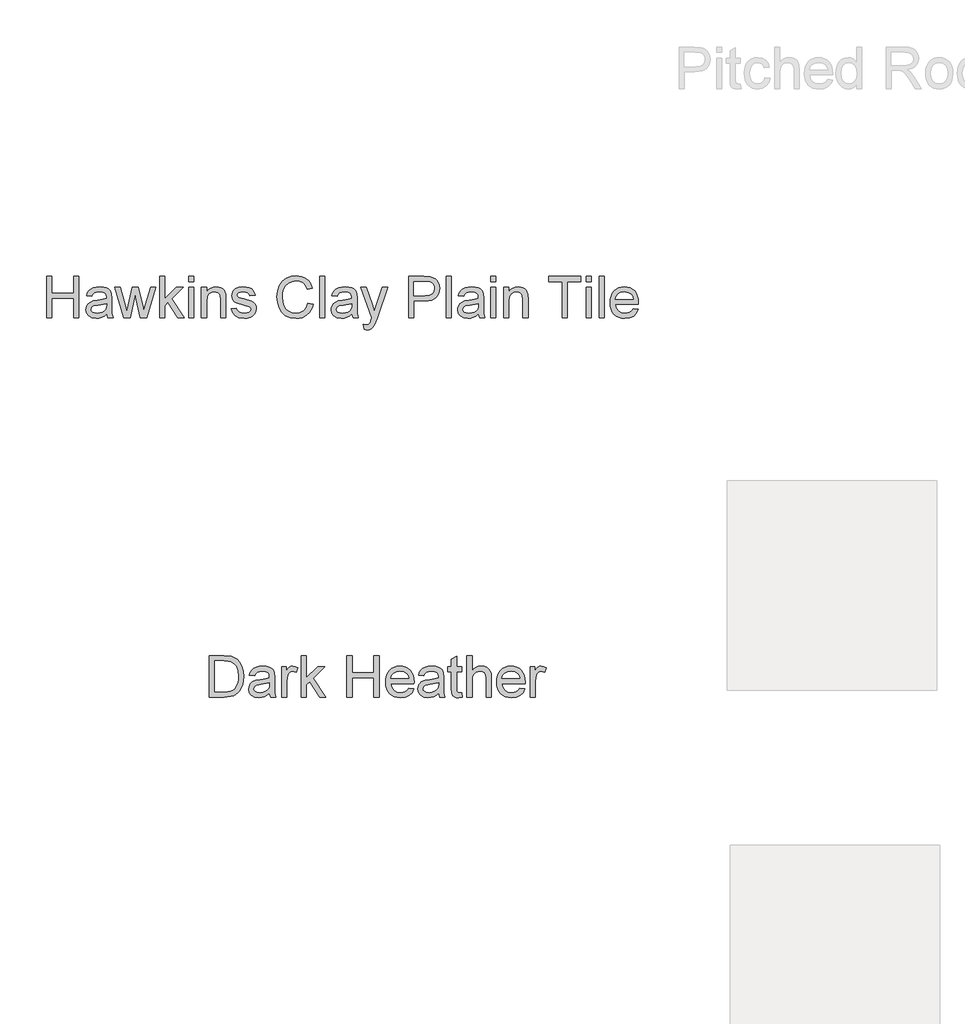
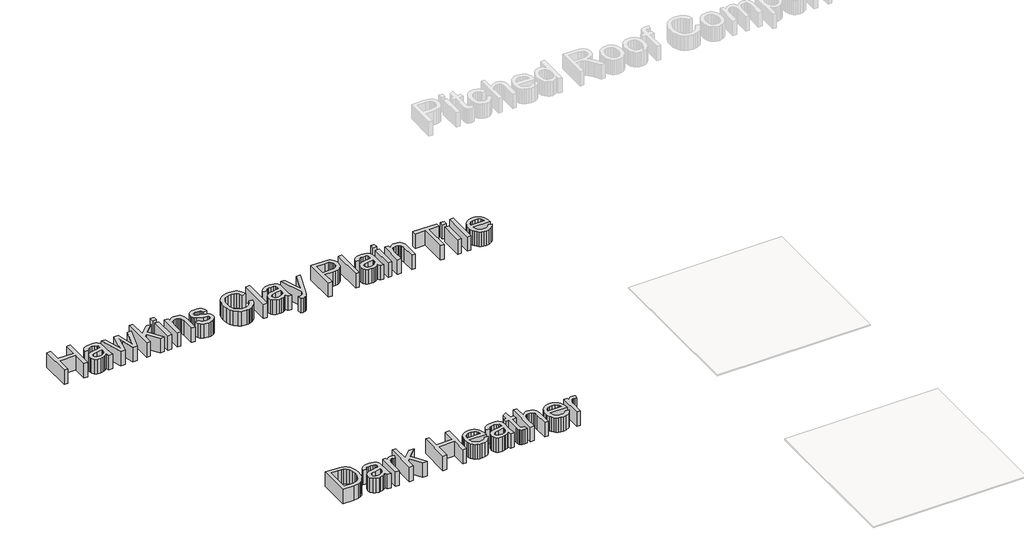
# One storey, part 3 of 4: 2 proxies.
"""IFC4 building model written with IfcOpenShell, lengths in millimetres."""

import ifcopenshell
import ifcopenshell.guid

model = None  # the IFC model being written
_history = None  # IfcOwnerHistory: only IFC2X3 demands one
_inside = {}  # id of a spatial element -> (the spatial element, [elements in it])
_under = {}  # id of a project, library or spatial element -> (it, [spatial elements below it])
_declared = {}  # id of a project -> (the project, [libraries it declares])
_typed = {}  # id of a type object -> (the type object, [elements of that type])
_made_of = {}  # id of a material, layer set ... -> (it, [elements and type objects made of it])


def new_model(schema):
    """Start an empty IFC model of exactly this schema.

    Asked for "IFC4X3", IfcOpenShell would pick the latest addendum, in which some entities
    have other attributes; the version numbers below select the first issue.
    IFC2X3 requires an IfcOwnerHistory on every rooted entity: one is made here for all.
    """
    global model, _history
    if schema == "IFC4X3":
        model = ifcopenshell.file(schema_version=(4, 3, 0, 0))
    else:
        model = ifcopenshell.file(schema=schema)
    _inside.clear()
    _under.clear()
    _declared.clear()
    _typed.clear()
    _made_of.clear()
    _history = None
    if model.schema == "IFC2X3":
        org = make("IfcOrganization", Name="unknown")
        user = make(
            "IfcPersonAndOrganization",
            ThePerson=make("IfcPerson", FamilyName="unknown"),
            TheOrganization=org,
        )
        app = make(
            "IfcApplication",
            ApplicationDeveloper=org,
            Version="unknown",
            ApplicationFullName="unknown",
            ApplicationIdentifier="unknown",
        )
        _history = make(
            "IfcOwnerHistory",
            OwningUser=user,
            OwningApplication=app,
            ChangeAction="ADDED",
            CreationDate=0,
        )
    return model


def make(cls, **values):
    """One entity of the class cls with the attributes given. An attribute that is None is left unset."""
    return model.create_entity(
        cls, **{name: value for name, value in values.items() if value is not None}
    )


def rooted(cls, **values):
    """An entity with a GlobalId (a new one), such as an element, a storey or a relation."""
    return make(cls, GlobalId=ifcopenshell.guid.new(), OwnerHistory=_history, **values)


def si_unit(unit_type, name, prefix=None):
    """IfcSIUnit, for example si_unit("LENGTHUNIT", "METRE", prefix="MILLI")."""
    return make("IfcSIUnit", UnitType=unit_type, Prefix=prefix, Name=name)


def assignment(units):
    """IfcUnitAssignment: the units of a project."""
    return None if units is None else make("IfcUnitAssignment", Units=units)


def point(xyz):
    """IfcCartesianPoint."""
    return None if xyz is None else make("IfcCartesianPoint", Coordinates=xyz)


def direction(xyz):
    """IfcDirection."""
    return None if xyz is None else make("IfcDirection", DirectionRatios=xyz)


def frame(location, z_axis=None, x_axis=None):
    """IfcAxis2Placement3D, a coordinate frame: its origin and axes. An axis left out is left unset."""
    return make(
        "IfcAxis2Placement3D",
        Location=point(location),
        Axis=direction(z_axis),
        RefDirection=direction(x_axis),
    )


def origin():
    """The frame at (0, 0, 0) with its axes left unset."""
    return frame((0.0, 0.0, 0.0))


def place(relative_to, where):
    """IfcLocalPlacement: puts the frame where relative to a parent placement (None: the world)."""
    return make(
        "IfcLocalPlacement", PlacementRelTo=relative_to, RelativePlacement=where
    )


def context(
    kind, dimensions, precision=None, world=None, true_north=None, identifier=None
):
    """IfcGeometricRepresentationContext, for example the 3D "Model" context."""
    return make(
        "IfcGeometricRepresentationContext",
        ContextIdentifier=identifier,
        ContextType=kind,
        CoordinateSpaceDimension=dimensions,
        Precision=precision,
        WorldCoordinateSystem=world,
        TrueNorth=true_north,
    )


def project(units=None, contexts=None):
    """IfcProject with its units and contexts."""
    return rooted(
        "IfcProject",
        Name="project",
        RepresentationContexts=contexts,
        UnitsInContext=assignment(units),
    )


def spatial(cls, under=None, at=None, **own):
    """A site, building, storey or space (cls), placed at a placement, below another one or the project."""
    s = rooted(cls, ObjectPlacement=at, **own)
    if under is not None:
        _under.setdefault(under.id(), (under, []))[1].append(s)
    return s


def polyline(points):
    """IfcPolyline through the points."""
    return make("IfcPolyline", Points=[point(p) for p in points])


def outline(outer, holes=None, kind="AREA"):
    """IfcArbitraryClosedProfileDef: a profile drawn as a closed curve; with holes, ...WithVoids."""
    if holes is None:
        return make("IfcArbitraryClosedProfileDef", ProfileType=kind, OuterCurve=outer)
    return make(
        "IfcArbitraryProfileDefWithVoids",
        ProfileType=kind,
        OuterCurve=outer,
        InnerCurves=holes,
    )


def extrude(swept, where, along, depth):
    """IfcExtrudedAreaSolid: the profile swept, set in the frame where, extruded along a direction by depth."""
    return make(
        "IfcExtrudedAreaSolid",
        SweptArea=swept,
        Position=where,
        ExtrudedDirection=direction(along),
        Depth=depth,
    )


def shape(context_of_items, identifier, shape_type, items):
    """IfcShapeRepresentation: the items that make up one representation, for example the "Body"."""
    return make(
        "IfcShapeRepresentation",
        ContextOfItems=context_of_items,
        RepresentationIdentifier=identifier,
        RepresentationType=shape_type,
        Items=items,
    )


def made_of(thing, what):
    """Note that an element or type object is made of a material, layer set ...; save() writes the relation."""
    if what is not None:
        _made_of.setdefault(what.id(), (what, []))[1].append(thing)
    return thing


def element(
    cls,
    number,
    at=None,
    inside=None,
    cuts=None,
    type_object=None,
    material=None,
    context=None,
    identifier="Body",
    shape_type=None,
    held_by="IfcProductDefinitionShape",
    body=None,
    shapes=None,
    **own,
):
    """One element of the class cls, such as IfcWall. Its Tag is "e" and its number.

    at: its placement. inside: the storey or other place that contains it. cuts: it is an
    opening in that element (IfcRelVoidsElement). A single representation is given by context,
    identifier, shape_type and body (its items); several are given by shapes. held_by: the class
    of the entity that holds the representations. save() writes the other relations.
    """
    e = rooted(cls, Tag="e%d" % number, ObjectPlacement=at, **own)
    if body is not None:
        shapes = [shape(context, identifier, shape_type, body)]
    if shapes is not None:
        e.Representation = make(held_by, Representations=shapes)
    if inside is not None:
        _inside.setdefault(inside.id(), (inside, []))[1].append(e)
    if cuts is not None:
        rooted(
            "IfcRelVoidsElement", RelatingBuildingElement=cuts, RelatedOpeningElement=e
        )
    if type_object is not None:
        _typed.setdefault(type_object.id(), (type_object, []))[1].append(e)
    return made_of(e, material)


def aggregate(whole, parts):
    """IfcRelAggregates: a whole, such as a stair, and the parts it consists of."""
    return rooted("IfcRelAggregates", RelatingObject=whole, RelatedObjects=parts)


def save(model, path):
    """Write the relations noted so far, then the file.

    IfcRelAggregates (storeys below a building ...), IfcRelContainedInSpatialStructure (elements
    in a storey), IfcRelDefinesByType, IfcRelAssociatesMaterial and IfcRelDeclares: one each for
    every whole, place, type object, material and project.
    """
    for whole, parts in _under.values():
        aggregate(whole, parts)
    for where, things in _inside.values():
        rooted(
            "IfcRelContainedInSpatialStructure",
            RelatedElements=things,
            RelatingStructure=where,
        )
    for kind, things in _typed.values():
        rooted("IfcRelDefinesByType", RelatedObjects=things, RelatingType=kind)
    for what, things in _made_of.values():
        rooted("IfcRelAssociatesMaterial", RelatedObjects=things, RelatingMaterial=what)
    for by, libraries in _declared.values():
        rooted("IfcRelDeclares", RelatingContext=by, RelatedDefinitions=libraries)
    model.write(path)


model = new_model("IFC4")

# Units and contexts
model_context = context("Model", 3, world=origin())
ifc_project = project(units=[si_unit("LENGTHUNIT", "METRE", prefix="MILLI")], contexts=[model_context])

# Site, building, storey
site = spatial("IfcSite", under=ifc_project)
building = spatial("IfcBuilding", under=site)
storey = spatial("IfcBuildingStorey", under=building, Name="Marley Clay Plain Tile", Elevation=3000.0)

# Proxies
placement = place(None, origin())
element("IfcBuildingElementProxy", 1, Name="600mm Arial", ObjectType="600mm Arial", at=placement, inside=storey, context=model_context, shape_type="SweptSolid", body=[
    extrude(outline(polyline([(-15419.322126, 5964.949789), (-15419.322126, 6260.3344044), (-15382.3990491, 6260.3344044), (-15382.3990491, 6140.3344044), (-15225.4759722, 6140.3344044), (-15225.4759722, 6260.3344044), (-15188.5528952, 6260.3344044), (-15188.5528952, 5964.949789), (-15225.4759722, 5964.949789), (-15225.4759722, 6103.4113275), (-15382.3990491, 6103.4113275), (-15382.3990491, 5964.949789), (-15419.322126, 5964.949789)])), frame((0.0, 0.0, 3000.0), z_axis=(0.0, 0.0, 1.0), x_axis=(1.0, 0.0, 0.0)), (0.0, 0.0, 1.0), 150.0),
    extrude(outline(polyline([(-14990.0913568, 5992.6420967), (-15007.7325827, 5977.5158948), (-15025.8966452, 5967.6180583), (-15044.9982077, 5962.1553179), (-15065.4519337, 5960.3344044), (-15096.3083039, 5964.715414), (-15119.0697222, 5977.8584429), (-15133.1051789, 5997.8163756), (-15137.7836645, 6022.6420967), (-15136.0168376, 6037.9485871), (-15130.7163568, 6051.8488275), (-15122.5402751, 6063.747866), (-15112.1466452, 6073.0507506), (-15086.2932799, 6085.1661352), (-15054.3461645, 6090.7190198), (-15016.5937606, 6096.560366), (-14990.3077029, 6103.4113275), (-14990.0913568, 6111.6324813), (-14992.6334241, 6128.1108467), (-15000.259626, 6138.8920967), (-15017.3149145, 6146.8969044), (-15041.0769337, 6149.5651736), (-15063.072126, 6147.7893323), (-15078.4327029, 6142.4618083), (-15088.9074626, 6132.6090438), (-15096.2452029, 6117.2574813), (-15133.1682799, 6121.872866), (-15126.7590251, 6142.0651736), (-15117.1947222, 6157.9305583), (-15103.5829433, 6170.0639717), (-15085.0312606, 6179.060366), (-15062.3419577, 6184.6312794), (-15036.3173183, 6186.4882506), (-15011.3563808, 6184.8476256), (-14991.5697222, 6179.9257506), (-14976.650852, 6172.5249092), (-14966.2932799, 6163.4473852), (-14959.4242895, 6152.2244285), (-14954.9711645, 6138.387289), (-14953.1682799, 6106.0795967), (-14953.1682799, 6060.1420967), (-14951.2932799, 5995.9954621), (-14943.9375106, 5964.949789), (-14980.8605876, 5964.949789), (-14990.0913568, 5992.6420967)]), holes=[polyline([(-14990.0913568, 6066.4882506), (-15049.6586645, 6055.1661352), (-15081.4254914, 6049.1805583), (-15095.8125106, 6039.4449813), (-15100.8605876, 6025.2382506), (-15098.1111885, 6014.2586833), (-15089.8629914, 6005.262289), (-15076.2962847, 5999.2586833), (-15057.5913568, 5997.2574813), (-15037.759626, 5999.466015), (-15020.2355876, 6006.091616), (-15006.0288568, 6015.8542361), (-14996.1490491, 6027.4738275), (-14991.7680395, 6039.4449813), (-14990.3077029, 6056.0315198), (-14990.0913568, 6066.4882506)])]), frame((0.0, 0.0, 3000.0), z_axis=(0.0, 0.0, 1.0), x_axis=(1.0, 0.0, 0.0)), (0.0, 0.0, 1.0), 150.0),
    extrude(outline(polyline([(-14866.4134722, 5964.949789), (-14932.3990491, 6181.872866), (-14894.0336645, 6181.872866), (-14856.6057799, 6055.310366), (-14845.4278952, 6010.0940198), (-14836.2692414, 6053.6517121), (-14806.4855876, 6181.872866), (-14762.4952029, 6181.872866), (-14732.8557799, 6054.012289), (-14724.7067414, 6014.5651736), (-14713.0240491, 6056.1757506), (-14675.5240491, 6181.872866), (-14637.0144337, 6181.872866), (-14703.5048183, 5964.949789), (-14748.1442414, 5964.949789), (-14776.4855876, 6092.1613275), (-14784.7067414, 6131.824789), (-14821.2692414, 5964.949789), (-14866.4134722, 5964.949789)])), frame((0.0, 0.0, 3000.0), z_axis=(0.0, 0.0, 1.0), x_axis=(1.0, 0.0, 0.0)), (0.0, 0.0, 1.0), 150.0),
    extrude(outline(polyline([(-14611.6298183, 5964.949789), (-14611.6298183, 6260.3344044), (-14574.7067414, 6260.3344044), (-14574.7067414, 6101.6084429), (-14491.9182799, 6181.872866), (-14440.8605876, 6181.872866), (-14524.6586645, 6100.5988275), (-14436.2452029, 5964.949789), (-14479.3702029, 5964.949789), (-14551.1250106, 6074.9257506), (-14574.7067414, 6052.0651736), (-14574.7067414, 5964.949789), (-14611.6298183, 5964.949789)])), frame((0.0, 0.0, 3000.0), z_axis=(0.0, 0.0, 1.0), x_axis=(1.0, 0.0, 0.0)), (0.0, 0.0, 1.0), 150.0),
    extrude(outline(polyline([(-14403.9375106, 6223.4113275), (-14403.9375106, 6260.3344044), (-14367.0144337, 6260.3344044), (-14367.0144337, 6223.4113275), (-14403.9375106, 6223.4113275)])), frame((0.0, 0.0, 3000.0), z_axis=(0.0, 0.0, 1.0), x_axis=(1.0, 0.0, 0.0)), (0.0, 0.0, 1.0), 150.0),
    extrude(outline(polyline([(-14403.9375106, 5964.949789), (-14403.9375106, 6181.872866), (-14367.0144337, 6181.872866), (-14367.0144337, 5964.949789), (-14403.9375106, 5964.949789)])), frame((0.0, 0.0, 3000.0), z_axis=(0.0, 0.0, 1.0), x_axis=(1.0, 0.0, 0.0)), (0.0, 0.0, 1.0), 150.0),
    extrude(outline(polyline([(-14311.6298183, 5964.949789), (-14311.6298183, 6181.872866), (-14274.7067414, 6181.872866), (-14274.7067414, 6151.5844044), (-14261.8792174, 6166.8548371), (-14246.4735683, 6177.762289), (-14228.4897943, 6184.3067602), (-14207.9278952, 6186.4882506), (-14189.7277751, 6184.7304381), (-14173.0601068, 6179.4570006), (-14159.1598664, 6171.325991), (-14149.2620299, 6160.9954621), (-14138.1923183, 6133.8440198), (-14136.2452029, 6098.1469044), (-14136.2452029, 5964.949789), (-14173.1682799, 5964.949789), (-14173.1682799, 6093.1709429), (-14177.4230876, 6125.8392121), (-14183.3095058, 6135.5657746), (-14192.4591452, 6143.1108467), (-14204.1869097, 6147.9515919), (-14217.8077029, 6149.5651736), (-14239.4333039, 6145.9413756), (-14257.8677991, 6135.0699813), (-14265.2348364, 6126.1952818), (-14270.4970058, 6114.0663756), (-14274.7067414, 6080.0459429), (-14274.7067414, 5964.949789), (-14311.6298183, 5964.949789)])), frame((0.0, 0.0, 3000.0), z_axis=(0.0, 0.0, 1.0), x_axis=(1.0, 0.0, 0.0)), (0.0, 0.0, 1.0), 150.0),
    extrude(outline(polyline([(-14099.322126, 6029.5651736), (-14062.3990491, 6034.1805583), (-14056.5757318, 6018.387289), (-14045.3077029, 6006.7767121), (-14028.5228472, 5999.637289), (-14006.1490491, 5997.2574813), (-13984.0456837, 5999.4389717), (-13968.5048183, 6005.9834429), (-13959.3101068, 6015.466616), (-13956.2452029, 6026.4642121), (-13959.3281356, 6035.8752698), (-13968.5769337, 6043.0507506), (-14006.5817414, 6053.5795967), (-14062.1827029, 6071.6445006), (-14076.2542174, 6080.7220246), (-14086.4495299, 6092.7382506), (-14092.6424385, 6106.9269525), (-14094.7067414, 6122.5219044), (-14093.0480876, 6136.8277938), (-14088.072126, 6150.0339236), (-14080.2295779, 6161.6174573), (-14069.9711645, 6171.0555583), (-14046.4976068, 6181.981039), (-14014.7307799, 6186.4882506), (-13990.6983279, 6184.6763515), (-13969.8028952, 6179.2406544), (-13953.0000106, 6170.7130102), (-13941.2452029, 6159.6252698), (-13933.4567414, 6145.1571208), (-13928.5528952, 6126.4882506), (-13965.4759722, 6121.872866), (-13970.1364289, 6133.4924573), (-13979.3581837, 6142.2454621), (-13993.2313808, 6147.7352458), (-14011.8461645, 6149.5651736), (-14033.0480876, 6147.8163756), (-14047.1827029, 6142.5699813), (-14055.1334241, 6134.997866), (-14057.7836645, 6126.2719044), (-14053.384626, 6115.5267121), (-14039.6105876, 6107.3776736), (-14007.8077029, 6099.5170967), (-13953.6129914, 6082.137289), (-13939.2980876, 6073.825991), (-13928.4447222, 6062.449789), (-13921.6027751, 6047.9726256), (-13919.322126, 6030.3584429), (-13921.9994097, 6012.1493083), (-13930.0312606, 5995.0219044), (-13943.1111885, 5980.3193804), (-13960.9327029, 5969.3848852), (-13982.4591452, 5962.5970246), (-14006.6538568, 5960.3344044), (-14043.8834241, 5964.6973852), (-14071.0528952, 5977.7863275), (-14089.1899145, 5999.4570006), (-14099.322126, 6029.5651736)])), frame((0.0, 0.0, 3000.0), z_axis=(0.0, 0.0, 1.0), x_axis=(1.0, 0.0, 0.0)), (0.0, 0.0, 1.0), 150.0),
    extrude(outline(polyline([(-13550.0913568, 6069.949789), (-13513.1682799, 6060.4305583), (-13520.4744698, 6037.4685691), (-13530.2055395, 6017.4047169), (-13542.361489, 6000.2390018), (-13556.9423183, 5985.9714236), (-13573.619001, 5974.7552277), (-13592.0625106, 5966.7436592), (-13612.2728472, 5961.9367181), (-13634.2500106, 5960.3344044), (-13677.0775347, 5965.184164), (-13711.0889529, 5979.7334429), (-13737.1586645, 6003.4774333), (-13756.1610683, 6035.9113275), (-13767.7626308, 6074.0423371), (-13771.6298183, 6114.8776736), (-13767.2578231, 6157.9485871), (-13754.1418376, 6195.1420967), (-13732.9669577, 6225.2773131), (-13704.4182799, 6247.1733467), (-13670.5601068, 6260.5056785), (-13633.4567414, 6264.949789), (-13592.9729674, 6259.1985871), (-13575.3610383, 6252.0095847), (-13559.5024145, 6241.9449813), (-13545.6585142, 6229.2707025), (-13534.0907558, 6214.2526736), (-13517.7836645, 6177.185366), (-13554.7067414, 6168.387289), (-13567.5072222, 6195.3133708), (-13584.9952029, 6213.7839236), (-13607.3870299, 6224.466015), (-13634.8990491, 6228.0267121), (-13666.6117895, 6224.0783948), (-13692.6634722, 6212.2334429), (-13712.432102, 6193.7358467), (-13725.2956837, 6169.8295967), (-13732.353977, 6142.8043563), (-13734.7067414, 6114.949789), (-13731.9212847, 6080.8392121), (-13723.5649145, 6051.3440198), (-13709.322126, 6027.591015), (-13688.8774145, 6010.7070006), (-13664.3671981, 6000.6198611), (-13637.9278952, 5997.2574813), (-13607.1075827, 6001.8368083), (-13581.4254914, 6015.574789), (-13562.0354674, 6038.3271929), (-13550.0913568, 6069.949789)])), frame((0.0, 0.0, 3000.0), z_axis=(0.0, 0.0, 1.0), x_axis=(1.0, 0.0, 0.0)), (0.0, 0.0, 1.0), 150.0),
    extrude(outline(polyline([(-13467.0144337, 5964.949789), (-13467.0144337, 6260.3344044), (-13430.0913568, 6260.3344044), (-13430.0913568, 5964.949789), (-13467.0144337, 5964.949789)])), frame((0.0, 0.0, 3000.0), z_axis=(0.0, 0.0, 1.0), x_axis=(1.0, 0.0, 0.0)), (0.0, 0.0, 1.0), 150.0),
    extrude(outline(polyline([(-13236.2452029, 5992.6420967), (-13253.8864289, 5977.5158948), (-13272.0504914, 5967.6180583), (-13291.1520539, 5962.1553179), (-13311.6057799, 5960.3344044), (-13342.4621501, 5964.715414), (-13365.2235683, 5977.8584429), (-13379.2590251, 5997.8163756), (-13383.9375106, 6022.6420967), (-13382.1706837, 6037.9485871), (-13376.8702029, 6051.8488275), (-13368.6941212, 6063.747866), (-13358.3004914, 6073.0507506), (-13332.447126, 6085.1661352), (-13300.5000106, 6090.7190198), (-13262.7476068, 6096.560366), (-13236.4615491, 6103.4113275), (-13236.2452029, 6111.6324813), (-13238.7872702, 6128.1108467), (-13246.4134722, 6138.8920967), (-13263.4687606, 6146.8969044), (-13287.2307799, 6149.5651736), (-13309.2259722, 6147.7893323), (-13324.5865491, 6142.4618083), (-13335.0613087, 6132.6090438), (-13342.3990491, 6117.2574813), (-13379.322126, 6121.872866), (-13372.9128712, 6142.0651736), (-13363.3485683, 6157.9305583), (-13349.7367895, 6170.0639717), (-13331.1851068, 6179.060366), (-13308.4958039, 6184.6312794), (-13282.4711645, 6186.4882506), (-13257.510227, 6184.8476256), (-13237.7235683, 6179.9257506), (-13222.8046981, 6172.5249092), (-13212.447126, 6163.4473852), (-13205.5781356, 6152.2244285), (-13201.1250106, 6138.387289), (-13199.322126, 6106.0795967), (-13199.322126, 6060.1420967), (-13197.447126, 5995.9954621), (-13190.0913568, 5964.949789), (-13227.0144337, 5964.949789), (-13236.2452029, 5992.6420967)]), holes=[polyline([(-13236.2452029, 6066.4882506), (-13295.8125106, 6055.1661352), (-13327.5793376, 6049.1805583), (-13341.9663568, 6039.4449813), (-13347.0144337, 6025.2382506), (-13344.2650347, 6014.2586833), (-13336.0168376, 6005.262289), (-13322.4501308, 5999.2586833), (-13303.7452029, 5997.2574813), (-13283.9134722, 5999.466015), (-13266.3894337, 6006.091616), (-13252.1827029, 6015.8542361), (-13242.3028952, 6027.4738275), (-13237.9218856, 6039.4449813), (-13236.4615491, 6056.0315198), (-13236.2452029, 6066.4882506)])]), frame((0.0, 0.0, 3000.0), z_axis=(0.0, 0.0, 1.0), x_axis=(1.0, 0.0, 0.0)), (0.0, 0.0, 1.0), 150.0),
    extrude(outline(polyline([(-13148.5528952, 5881.872866), (-13153.1682799, 5917.4257506), (-13134.4182799, 5914.1805583), (-13116.8942414, 5918.2550775), (-13106.1490491, 5929.6132506), (-13096.0528952, 5956.8007506), (-13093.1682799, 5965.7430583), (-13171.6298183, 6181.872866), (-13132.6875106, 6181.872866), (-13091.0769337, 6061.4401736), (-13076.5817414, 6013.2670967), (-13062.0865491, 6055.8151736), (-13019.322126, 6181.872866), (-12980.6682799, 6181.872866), (-13056.1730876, 5959.7574813), (-13075.7884722, 5911.5844044), (-13085.8305395, 5896.2057986), (-13097.2067414, 5885.5507506), (-13110.4218856, 5879.3307986), (-13125.9807799, 5877.2574813), (-13148.5528952, 5881.872866)])), frame((0.0, 0.0, 3000.0), z_axis=(0.0, 0.0, 1.0), x_axis=(1.0, 0.0, 0.0)), (0.0, 0.0, 1.0), 150.0),
    extrude(outline(polyline([(-12830.0913568, 5964.949789), (-12830.0913568, 6260.3344044), (-12720.6202029, 6260.3344044), (-12676.4855876, 6257.5219044), (-12656.807102, 6252.2664958), (-12640.6081837, 6243.7118083), (-12627.5643135, 6231.4702217), (-12617.3509722, 6215.154116), (-12610.7524145, 6195.9083227), (-12608.5528952, 6174.8776736), (-12614.4934001, 6140.0639717), (-12621.9190311, 6124.8341039), (-12632.3149145, 6111.0555583), (-12646.5869998, 6099.6342842), (-12665.6412366, 6091.4762313), (-12689.4776248, 6086.5813996), (-12718.0961645, 6084.949789), (-12793.1682799, 6084.949789), (-12793.1682799, 5964.949789), (-12830.0913568, 5964.949789)]), holes=[polyline([(-12793.1682799, 6121.872866), (-12715.9327029, 6121.872866), (-12683.1923183, 6125.262289), (-12661.5577029, 6135.4305583), (-12649.4964049, 6151.746664), (-12645.4759722, 6173.5795967), (-12647.8467654, 6190.1661352), (-12654.9591452, 6204.1565198), (-12665.9296981, 6214.685366), (-12679.8750106, 6220.887289), (-12716.7980876, 6223.4113275), (-12793.1682799, 6223.4113275), (-12793.1682799, 6121.872866)])]), frame((0.0, 0.0, 3000.0), z_axis=(0.0, 0.0, 1.0), x_axis=(1.0, 0.0, 0.0)), (0.0, 0.0, 1.0), 150.0),
    extrude(outline(polyline([(-12562.3990491, 5964.949789), (-12562.3990491, 6260.3344044), (-12525.4759722, 6260.3344044), (-12525.4759722, 5964.949789), (-12562.3990491, 5964.949789)])), frame((0.0, 0.0, 3000.0), z_axis=(0.0, 0.0, 1.0), x_axis=(1.0, 0.0, 0.0)), (0.0, 0.0, 1.0), 150.0),
    extrude(outline(polyline([(-12331.6298183, 5992.6420967), (-12349.2710443, 5977.5158948), (-12367.4351068, 5967.6180583), (-12386.5366693, 5962.1553179), (-12406.9903952, 5960.3344044), (-12437.8467654, 5964.715414), (-12460.6081837, 5977.8584429), (-12474.6436404, 5997.8163756), (-12479.322126, 6022.6420967), (-12477.5552991, 6037.9485871), (-12472.2548183, 6051.8488275), (-12464.0787366, 6063.747866), (-12453.6851068, 6073.0507506), (-12427.8317414, 6085.1661352), (-12395.884626, 6090.7190198), (-12358.1322222, 6096.560366), (-12331.8461645, 6103.4113275), (-12331.6298183, 6111.6324813), (-12334.1718856, 6128.1108467), (-12341.7980876, 6138.8920967), (-12358.853376, 6146.8969044), (-12382.6153952, 6149.5651736), (-12404.6105876, 6147.7893323), (-12419.9711645, 6142.4618083), (-12430.4459241, 6132.6090438), (-12437.7836645, 6117.2574813), (-12474.7067414, 6121.872866), (-12468.2974866, 6142.0651736), (-12458.7331837, 6157.9305583), (-12445.1214049, 6170.0639717), (-12426.5697222, 6179.060366), (-12403.8804193, 6184.6312794), (-12377.8557799, 6186.4882506), (-12352.8948424, 6184.8476256), (-12333.1081837, 6179.9257506), (-12318.1893135, 6172.5249092), (-12307.8317414, 6163.4473852), (-12300.962751, 6152.2244285), (-12296.509626, 6138.387289), (-12294.7067414, 6106.0795967), (-12294.7067414, 6060.1420967), (-12292.8317414, 5995.9954621), (-12285.4759722, 5964.949789), (-12322.3990491, 5964.949789), (-12331.6298183, 5992.6420967)]), holes=[polyline([(-12331.6298183, 6066.4882506), (-12391.197126, 6055.1661352), (-12422.9639529, 6049.1805583), (-12437.3509722, 6039.4449813), (-12442.3990491, 6025.2382506), (-12439.6496501, 6014.2586833), (-12431.4014529, 6005.262289), (-12417.8347462, 5999.2586833), (-12399.1298183, 5997.2574813), (-12379.2980876, 5999.466015), (-12361.7740491, 6006.091616), (-12347.5673183, 6015.8542361), (-12337.6875106, 6027.4738275), (-12333.306501, 6039.4449813), (-12331.8461645, 6056.0315198), (-12331.6298183, 6066.4882506)])]), frame((0.0, 0.0, 3000.0), z_axis=(0.0, 0.0, 1.0), x_axis=(1.0, 0.0, 0.0)), (0.0, 0.0, 1.0), 150.0),
    extrude(outline(polyline([(-12243.9375106, 6223.4113275), (-12243.9375106, 6260.3344044), (-12207.0144337, 6260.3344044), (-12207.0144337, 6223.4113275), (-12243.9375106, 6223.4113275)])), frame((0.0, 0.0, 3000.0), z_axis=(0.0, 0.0, 1.0), x_axis=(1.0, 0.0, 0.0)), (0.0, 0.0, 1.0), 150.0),
    extrude(outline(polyline([(-12243.9375106, 5964.949789), (-12243.9375106, 6181.872866), (-12207.0144337, 6181.872866), (-12207.0144337, 5964.949789), (-12243.9375106, 5964.949789)])), frame((0.0, 0.0, 3000.0), z_axis=(0.0, 0.0, 1.0), x_axis=(1.0, 0.0, 0.0)), (0.0, 0.0, 1.0), 150.0),
    extrude(outline(polyline([(-12151.6298183, 5964.949789), (-12151.6298183, 6181.872866), (-12114.7067414, 6181.872866), (-12114.7067414, 6151.5844044), (-12101.8792174, 6166.8548371), (-12086.4735683, 6177.762289), (-12068.4897943, 6184.3067602), (-12047.9278952, 6186.4882506), (-12029.7277751, 6184.7304381), (-12013.0601068, 6179.4570006), (-11999.1598664, 6171.325991), (-11989.2620299, 6160.9954621), (-11978.1923183, 6133.8440198), (-11976.2452029, 6098.1469044), (-11976.2452029, 5964.949789), (-12013.1682799, 5964.949789), (-12013.1682799, 6093.1709429), (-12017.4230876, 6125.8392121), (-12023.3095058, 6135.5657746), (-12032.4591452, 6143.1108467), (-12044.1869097, 6147.9515919), (-12057.8077029, 6149.5651736), (-12079.4333039, 6145.9413756), (-12097.8677991, 6135.0699813), (-12105.2348364, 6126.1952818), (-12110.4970058, 6114.0663756), (-12114.7067414, 6080.0459429), (-12114.7067414, 5964.949789), (-12151.6298183, 5964.949789)])), frame((0.0, 0.0, 3000.0), z_axis=(0.0, 0.0, 1.0), x_axis=(1.0, 0.0, 0.0)), (0.0, 0.0, 1.0), 150.0),
    extrude(outline(polyline([(-11731.6298183, 5964.949789), (-11731.6298183, 6223.4113275), (-11828.5528952, 6223.4113275), (-11828.5528952, 6260.3344044), (-11597.7836645, 6260.3344044), (-11597.7836645, 6223.4113275), (-11694.7067414, 6223.4113275), (-11694.7067414, 5964.949789), (-11731.6298183, 5964.949789)])), frame((0.0, 0.0, 3000.0), z_axis=(0.0, 0.0, 1.0), x_axis=(1.0, 0.0, 0.0)), (0.0, 0.0, 1.0), 150.0),
    extrude(outline(polyline([(-11560.8605876, 5964.949789), (-11560.8605876, 6181.872866), (-11523.9375106, 6181.872866), (-11523.9375106, 5964.949789), (-11560.8605876, 5964.949789)])), frame((0.0, 0.0, 3000.0), z_axis=(0.0, 0.0, 1.0), x_axis=(1.0, 0.0, 0.0)), (0.0, 0.0, 1.0), 150.0),
    extrude(outline(polyline([(-11560.8605876, 6223.4113275), (-11560.8605876, 6260.3344044), (-11523.9375106, 6260.3344044), (-11523.9375106, 6223.4113275), (-11560.8605876, 6223.4113275)])), frame((0.0, 0.0, 3000.0), z_axis=(0.0, 0.0, 1.0), x_axis=(1.0, 0.0, 0.0)), (0.0, 0.0, 1.0), 150.0),
    extrude(outline(polyline([(-11468.5528952, 5964.949789), (-11468.5528952, 6260.3344044), (-11431.6298183, 6260.3344044), (-11431.6298183, 5964.949789), (-11468.5528952, 5964.949789)])), frame((0.0, 0.0, 3000.0), z_axis=(0.0, 0.0, 1.0), x_axis=(1.0, 0.0, 0.0)), (0.0, 0.0, 1.0), 150.0),
    extrude(outline(polyline([(-11224.3702029, 6029.5651736), (-11188.1682799, 6024.949789), (-11201.2121501, 5997.6721448), (-11222.0264529, 5977.2815198), (-11250.1424385, 5964.5711833), (-11285.0913568, 5960.3344044), (-11308.001513, 5962.1620787), (-11328.4146741, 5967.6451015), (-11346.33084, 5976.7834729), (-11361.7500106, 5989.5771929), (-11374.1493496, 6005.6701917), (-11383.0060202, 6024.7063996), (-11388.3200227, 6046.6858167), (-11390.0913568, 6071.6084429), (-11388.3019938, 6097.3761712), (-11382.9339049, 6120.0880102), (-11373.98709, 6139.7439597), (-11361.4615491, 6156.3440198), (-11346.0829433, 6169.5321208), (-11328.5769337, 6178.9521929), (-11308.9435202, 6184.6042361), (-11287.1827029, 6186.4882506), (-11266.122757, 6184.6087434), (-11247.0775347, 6178.9702217), (-11230.0470359, 6169.5726857), (-11215.0312606, 6156.4161352), (-11202.7738989, 6139.8521328), (-11194.0186404, 6120.232241), (-11188.7654854, 6097.5564597), (-11187.0144337, 6071.824789), (-11187.2307799, 6061.872866), (-11353.1682799, 6061.872866), (-11346.7770539, 6034.2346448), (-11331.9302991, 6013.9161352), (-11310.5030154, 6001.4221448), (-11284.3702029, 5997.2574813), (-11264.7187606, 5999.1865679), (-11248.1682799, 6004.9738275), (-11234.7187606, 6014.9798371), (-11224.3702029, 6029.5651736)]), holes=[polyline([(-11353.1682799, 6098.7959429), (-11223.9375106, 6098.7959429), (-11228.931501, 6118.3031544), (-11238.7211645, 6132.2574813), (-11260.2476068, 6145.2382506), (-11287.3269337, 6149.5651736), (-11312.2157558, 6146.1126496), (-11332.7956837, 6135.7550775), (-11347.1015731, 6119.6102458), (-11353.1682799, 6098.7959429)])]), frame((0.0, 0.0, 3000.0), z_axis=(0.0, 0.0, 1.0), x_axis=(1.0, 0.0, 0.0)), (0.0, 0.0, 1.0), 150.0),
])
element("IfcBuildingElementProxy", 2, Name="600mm Arial", ObjectType="600mm Arial", at=placement, inside=storey, context=model_context, shape_type="SweptSolid", body=[
    extrude(outline(polyline([(-14254.8122203, 3252.4379103), (-14254.8122203, 3547.8225257), (-14152.9131818, 3547.8225257), (-14100.1968357, 3543.567718), (-14076.6511626, 3535.364593), (-14056.7833742, 3522.4379103), (-14036.3566915, 3499.9379103), (-14021.8074126, 3471.9571411), (-14013.0994799, 3439.036468), (-14010.1968357, 3401.7167565), (-14012.1619799, 3370.0130305), (-14018.0574126, 3342.1133911), (-14027.035778, 3318.3603863), (-14038.2497203, 3299.0965641), (-14051.1583742, 3283.8892324), (-14065.2208742, 3272.3056988), (-14081.3657059, 3263.7149536), (-14100.5213549, 3257.4859872), (-14148.0093357, 3252.4379103), (-14254.8122203, 3252.4379103)]), holes=[polyline([(-14217.8891434, 3289.3609872), (-14152.5526049, 3289.3609872), (-14125.5273645, 3290.6951218), (-14105.0285665, 3294.6975257), (-14089.5598165, 3301.1338238), (-14077.6247203, 3309.7696411), (-14064.7971963, 3325.7522132), (-14055.160778, 3346.4403141), (-14049.130129, 3371.9240882), (-14047.1199126, 3402.2936795), (-14051.0592155, 3442.5340641), (-14062.8771242, 3472.2456026), (-14080.3380617, 3492.6542565), (-14101.2064511, 3504.9859872), (-14122.4444318, 3509.4210834), (-14153.5622203, 3510.8994488), (-14217.8891434, 3510.8994488), (-14217.8891434, 3289.3609872)])]), frame((0.0, 0.0, 3000.0), z_axis=(0.0, 0.0, 1.0), x_axis=(1.0, 0.0, 0.0)), (0.0, 0.0, 1.0), 150.0),
    extrude(outline(polyline([(-13825.5814511, 3280.130218), (-13843.222677, 3265.0040161), (-13861.3867395, 3255.1061795), (-13880.488302, 3249.6434391), (-13900.942028, 3247.8225257), (-13931.7983982, 3252.2035353), (-13954.5598165, 3265.3465641), (-13968.5952732, 3285.3044968), (-13973.2737588, 3310.130218), (-13971.5069318, 3325.4367084), (-13966.2064511, 3339.3369488), (-13958.0303693, 3351.2359872), (-13947.6367395, 3360.5388718), (-13921.7833742, 3372.6542565), (-13889.8362588, 3378.2071411), (-13852.0838549, 3384.0484872), (-13825.7977972, 3390.8994488), (-13825.5814511, 3399.1206026), (-13828.1235184, 3415.598968), (-13835.7497203, 3426.380218), (-13852.8050088, 3434.3850257), (-13876.567028, 3437.0532949), (-13898.5622203, 3435.2774536), (-13913.9227972, 3429.9499295), (-13924.3975568, 3420.0971651), (-13931.7352972, 3404.7456026), (-13968.6583742, 3409.3609872), (-13962.2491193, 3429.5532949), (-13952.6848165, 3445.4186795), (-13939.0730376, 3457.552093), (-13920.5213549, 3466.5484872), (-13897.832052, 3472.1194007), (-13871.8074126, 3473.9763718), (-13846.8464751, 3472.3357468), (-13827.0598165, 3467.4138718), (-13812.1409463, 3460.0130305), (-13801.7833742, 3450.9355065), (-13794.9143838, 3439.7125497), (-13790.4612588, 3425.8754103), (-13788.6583742, 3393.567718), (-13788.6583742, 3347.630218), (-13786.7833742, 3283.4835834), (-13779.4276049, 3252.4379103), (-13816.3506818, 3252.4379103), (-13825.5814511, 3280.130218)]), holes=[polyline([(-13825.5814511, 3353.9763718), (-13885.1487588, 3342.6542565), (-13916.9155857, 3336.6686795), (-13931.3026049, 3326.9331026), (-13936.3506818, 3312.7263718), (-13933.6012828, 3301.7468045), (-13925.3530857, 3292.7504103), (-13911.786379, 3286.7468045), (-13893.0814511, 3284.7456026), (-13873.2497203, 3286.9541363), (-13855.7256818, 3293.5797372), (-13841.5189511, 3303.3423574), (-13831.6391434, 3314.9619488), (-13827.2581338, 3326.9331026), (-13825.7977972, 3343.5196411), (-13825.5814511, 3353.9763718)])]), frame((0.0, 0.0, 3000.0), z_axis=(0.0, 0.0, 1.0), x_axis=(1.0, 0.0, 0.0)), (0.0, 0.0, 1.0), 150.0),
    extrude(outline(polyline([(-13737.8891434, 3252.4379103), (-13737.8891434, 3469.3609872), (-13705.5814511, 3469.3609872), (-13705.5814511, 3437.2696411), (-13693.6463549, 3455.8754103), (-13682.6487588, 3466.8369488), (-13671.6151049, 3472.1915161), (-13659.5718357, 3473.9763718), (-13641.1824126, 3471.1278141), (-13622.504528, 3462.5821411), (-13634.8362588, 3429.4811795), (-13647.817028, 3435.1602661), (-13660.7977972, 3437.0532949), (-13671.8224367, 3435.2323815), (-13681.6752011, 3429.7696411), (-13689.6349367, 3421.0797372), (-13694.9804895, 3409.5773334), (-13699.4696722, 3388.9523334), (-13700.9660665, 3366.4523334), (-13700.9660665, 3252.4379103), (-13737.8891434, 3252.4379103)])), frame((0.0, 0.0, 3000.0), z_axis=(0.0, 0.0, 1.0), x_axis=(1.0, 0.0, 0.0)), (0.0, 0.0, 1.0), 150.0),
    extrude(outline(polyline([(-13599.4276049, 3252.4379103), (-13599.4276049, 3547.8225257), (-13562.504528, 3547.8225257), (-13562.504528, 3389.0965641), (-13479.7160665, 3469.3609872), (-13428.6583742, 3469.3609872), (-13512.4564511, 3388.0869488), (-13424.0429895, 3252.4379103), (-13467.1679895, 3252.4379103), (-13538.9227972, 3362.4138718), (-13562.504528, 3339.5532949), (-13562.504528, 3252.4379103), (-13599.4276049, 3252.4379103)])), frame((0.0, 0.0, 3000.0), z_axis=(0.0, 0.0, 1.0), x_axis=(1.0, 0.0, 0.0)), (0.0, 0.0, 1.0), 150.0),
    extrude(outline(polyline([(-13271.7352972, 3252.4379103), (-13271.7352972, 3547.8225257), (-13234.8122203, 3547.8225257), (-13234.8122203, 3427.8225257), (-13077.8891434, 3427.8225257), (-13077.8891434, 3547.8225257), (-13040.9660665, 3547.8225257), (-13040.9660665, 3252.4379103), (-13077.8891434, 3252.4379103), (-13077.8891434, 3390.8994488), (-13234.8122203, 3390.8994488), (-13234.8122203, 3252.4379103), (-13271.7352972, 3252.4379103)])), frame((0.0, 0.0, 3000.0), z_axis=(0.0, 0.0, 1.0), x_axis=(1.0, 0.0, 0.0)), (0.0, 0.0, 1.0), 150.0),
    extrude(outline(polyline([(-12829.0910665, 3317.0532949), (-12792.8891434, 3312.4379103), (-12805.9330136, 3285.1602661), (-12826.7473165, 3264.7696411), (-12854.863302, 3252.0593045), (-12889.8122203, 3247.8225257), (-12912.7223766, 3249.6502), (-12933.1355376, 3255.1332228), (-12951.0517035, 3264.2715942), (-12966.4708742, 3277.0653141), (-12978.8702131, 3293.1583129), (-12987.7268838, 3312.1945209), (-12993.0408862, 3334.1739379), (-12994.8122203, 3359.0965641), (-12993.0228573, 3384.8642925), (-12987.6547684, 3407.5761315), (-12978.7079535, 3427.232081), (-12966.1824126, 3443.8321411), (-12950.8038068, 3457.020242), (-12933.2977972, 3466.4403141), (-12913.6643838, 3472.0923574), (-12891.9035665, 3473.9763718), (-12870.8436206, 3472.0968646), (-12851.7983982, 3466.458343), (-12834.7678994, 3457.0608069), (-12819.7521242, 3443.9042565), (-12807.4947624, 3427.340254), (-12798.739504, 3407.7203622), (-12793.4863489, 3385.044581), (-12791.7352972, 3359.3129103), (-12791.9516434, 3349.3609872), (-12957.8891434, 3349.3609872), (-12951.4979174, 3321.7227661), (-12936.6511626, 3301.4042565), (-12915.223879, 3288.9102661), (-12889.0910665, 3284.7456026), (-12869.4396242, 3286.6746891), (-12852.8891434, 3292.4619488), (-12839.4396242, 3302.4679584), (-12829.0910665, 3317.0532949)]), holes=[polyline([(-12957.8891434, 3386.2840641), (-12828.6583742, 3386.2840641), (-12833.6523645, 3405.7912757), (-12843.442028, 3419.7456026), (-12864.9684703, 3432.7263718), (-12892.0477972, 3437.0532949), (-12916.9366193, 3433.6007709), (-12937.5165472, 3423.2431988), (-12951.8224367, 3407.098367), (-12957.8891434, 3386.2840641)])]), frame((0.0, 0.0, 3000.0), z_axis=(0.0, 0.0, 1.0), x_axis=(1.0, 0.0, 0.0)), (0.0, 0.0, 1.0), 150.0),
    extrude(outline(polyline([(-12616.3506818, 3280.130218), (-12633.9919078, 3265.0040161), (-12652.1559703, 3255.1061795), (-12671.2575328, 3249.6434391), (-12691.7112588, 3247.8225257), (-12722.567629, 3252.2035353), (-12745.3290472, 3265.3465641), (-12759.364504, 3285.3044968), (-12764.0429895, 3310.130218), (-12762.2761626, 3325.4367084), (-12756.9756818, 3339.3369488), (-12748.7996001, 3351.2359872), (-12738.4059703, 3360.5388718), (-12712.5526049, 3372.6542565), (-12680.6054895, 3378.2071411), (-12642.8530857, 3384.0484872), (-12616.567028, 3390.8994488), (-12616.3506818, 3399.1206026), (-12618.8927492, 3415.598968), (-12626.5189511, 3426.380218), (-12643.5742395, 3434.3850257), (-12667.3362588, 3437.0532949), (-12689.3314511, 3435.2774536), (-12704.692028, 3429.9499295), (-12715.1667876, 3420.0971651), (-12722.504528, 3404.7456026), (-12759.4276049, 3409.3609872), (-12753.0183501, 3429.5532949), (-12743.4540472, 3445.4186795), (-12729.8422684, 3457.552093), (-12711.2905857, 3466.5484872), (-12688.6012828, 3472.1194007), (-12662.5766434, 3473.9763718), (-12637.6157059, 3472.3357468), (-12617.8290472, 3467.4138718), (-12602.910177, 3460.0130305), (-12592.5526049, 3450.9355065), (-12585.6836145, 3439.7125497), (-12581.2304895, 3425.8754103), (-12579.4276049, 3393.567718), (-12579.4276049, 3347.630218), (-12577.5526049, 3283.4835834), (-12570.1968357, 3252.4379103), (-12607.1199126, 3252.4379103), (-12616.3506818, 3280.130218)]), holes=[polyline([(-12616.3506818, 3353.9763718), (-12675.9179895, 3342.6542565), (-12707.6848165, 3336.6686795), (-12722.0718357, 3326.9331026), (-12727.1199126, 3312.7263718), (-12724.3705136, 3301.7468045), (-12716.1223165, 3292.7504103), (-12702.5556097, 3286.7468045), (-12683.8506818, 3284.7456026), (-12664.0189511, 3286.9541363), (-12646.4949126, 3293.5797372), (-12632.2881818, 3303.3423574), (-12622.4083742, 3314.9619488), (-12618.0273645, 3326.9331026), (-12616.567028, 3343.5196411), (-12616.3506818, 3353.9763718)])]), frame((0.0, 0.0, 3000.0), z_axis=(0.0, 0.0, 1.0), x_axis=(1.0, 0.0, 0.0)), (0.0, 0.0, 1.0), 150.0),
    extrude(outline(polyline([(-12450.1968357, 3283.2311795), (-12445.5814511, 3251.3561795), (-12473.2016434, 3247.8225257), (-12490.9239992, 3249.3549776), (-12504.1391434, 3253.9523334), (-12513.4780857, 3261.0376699), (-12519.5718357, 3270.0340641), (-12522.9252011, 3285.4847853), (-12524.0429895, 3311.9331026), (-12524.0429895, 3432.4379103), (-12551.7352972, 3432.4379103), (-12551.7352972, 3469.3609872), (-12524.0429895, 3469.3609872), (-12524.0429895, 3522.0773334), (-12487.1199126, 3543.7840641), (-12487.1199126, 3469.3609872), (-12450.1968357, 3469.3609872), (-12450.1968357, 3432.4379103), (-12487.1199126, 3432.4379103), (-12487.1199126, 3313.0148334), (-12485.1727972, 3293.9763718), (-12478.8627011, 3287.2335834), (-12466.2785665, 3284.7456026), (-12450.1968357, 3283.2311795)])), frame((0.0, 0.0, 3000.0), z_axis=(0.0, 0.0, 1.0), x_axis=(1.0, 0.0, 0.0)), (0.0, 0.0, 1.0), 150.0),
    extrude(outline(polyline([(-12413.2737588, 3252.4379103), (-12413.2737588, 3547.8225257), (-12376.3506818, 3547.8225257), (-12376.3506818, 3439.2167565), (-12362.7884823, 3454.4240882), (-12347.5586145, 3465.286468), (-12330.6610785, 3471.8038959), (-12312.0958742, 3473.9763718), (-12289.7941915, 3471.6055786), (-12270.629528, 3464.4931988), (-12255.5393838, 3453.1981266), (-12245.4612588, 3438.2792565), (-12239.7821722, 3417.7804584), (-12237.8891434, 3389.7456026), (-12237.8891434, 3252.4379103), (-12274.8122203, 3252.4379103), (-12274.8122203, 3385.9234872), (-12277.7509222, 3409.036468), (-12286.567028, 3424.8657949), (-12300.7737588, 3434.0064199), (-12319.8843357, 3437.0532949), (-12335.488302, 3434.9980065), (-12350.1367395, 3428.8321411), (-12362.270153, 3419.1506507), (-12370.3290472, 3406.5484872), (-12374.8452732, 3389.7996891), (-12376.3506818, 3367.6782949), (-12376.3506818, 3252.4379103), (-12413.2737588, 3252.4379103)])), frame((0.0, 0.0, 3000.0), z_axis=(0.0, 0.0, 1.0), x_axis=(1.0, 0.0, 0.0)), (0.0, 0.0, 1.0), 150.0),
    extrude(outline(polyline([(-12035.2449126, 3317.0532949), (-11999.0429895, 3312.4379103), (-12012.0868597, 3285.1602661), (-12032.9011626, 3264.7696411), (-12061.0171482, 3252.0593045), (-12095.9660665, 3247.8225257), (-12118.8762227, 3249.6502), (-12139.2893838, 3255.1332228), (-12157.2055496, 3264.2715942), (-12172.6247203, 3277.0653141), (-12185.0240593, 3293.1583129), (-12193.8807299, 3312.1945209), (-12199.1947323, 3334.1739379), (-12200.9660665, 3359.0965641), (-12199.1767035, 3384.8642925), (-12193.8086145, 3407.5761315), (-12184.8617996, 3427.232081), (-12172.3362588, 3443.8321411), (-12156.957653, 3457.020242), (-12139.4516434, 3466.4403141), (-12119.8182299, 3472.0923574), (-12098.0574126, 3473.9763718), (-12076.9974667, 3472.0968646), (-12057.9522443, 3466.458343), (-12040.9217456, 3457.0608069), (-12025.9059703, 3443.9042565), (-12013.6486085, 3427.340254), (-12004.8933501, 3407.7203622), (-11999.6401951, 3385.044581), (-11997.8891434, 3359.3129103), (-11998.1054895, 3349.3609872), (-12164.0429895, 3349.3609872), (-12157.6517636, 3321.7227661), (-12142.8050088, 3301.4042565), (-12121.3777251, 3288.9102661), (-12095.2449126, 3284.7456026), (-12075.5934703, 3286.6746891), (-12059.0429895, 3292.4619488), (-12045.5934703, 3302.4679584), (-12035.2449126, 3317.0532949)]), holes=[polyline([(-12164.0429895, 3386.2840641), (-12034.8122203, 3386.2840641), (-12039.8062107, 3405.7912757), (-12049.5958742, 3419.7456026), (-12071.1223165, 3432.7263718), (-12098.2016434, 3437.0532949), (-12123.0904655, 3433.6007709), (-12143.6703934, 3423.2431988), (-12157.9762828, 3407.098367), (-12164.0429895, 3386.2840641)])]), frame((0.0, 0.0, 3000.0), z_axis=(0.0, 0.0, 1.0), x_axis=(1.0, 0.0, 0.0)), (0.0, 0.0, 1.0), 150.0),
    extrude(outline(polyline([(-11960.9660665, 3252.4379103), (-11960.9660665, 3469.3609872), (-11928.6583742, 3469.3609872), (-11928.6583742, 3437.2696411), (-11916.723278, 3455.8754103), (-11905.7256818, 3466.8369488), (-11894.692028, 3472.1915161), (-11882.6487588, 3473.9763718), (-11864.2593357, 3471.1278141), (-11845.5814511, 3462.5821411), (-11857.9131818, 3429.4811795), (-11870.8939511, 3435.1602661), (-11883.8747203, 3437.0532949), (-11894.8993597, 3435.2323815), (-11904.7521242, 3429.7696411), (-11912.7118597, 3421.0797372), (-11918.0574126, 3409.5773334), (-11922.5465953, 3388.9523334), (-11924.0429895, 3366.4523334), (-11924.0429895, 3252.4379103), (-11960.9660665, 3252.4379103)])), frame((0.0, 0.0, 3000.0), z_axis=(0.0, 0.0, 1.0), x_axis=(1.0, 0.0, 0.0)), (0.0, 0.0, 1.0), 150.0),
])

save(model, "model.ifc")
